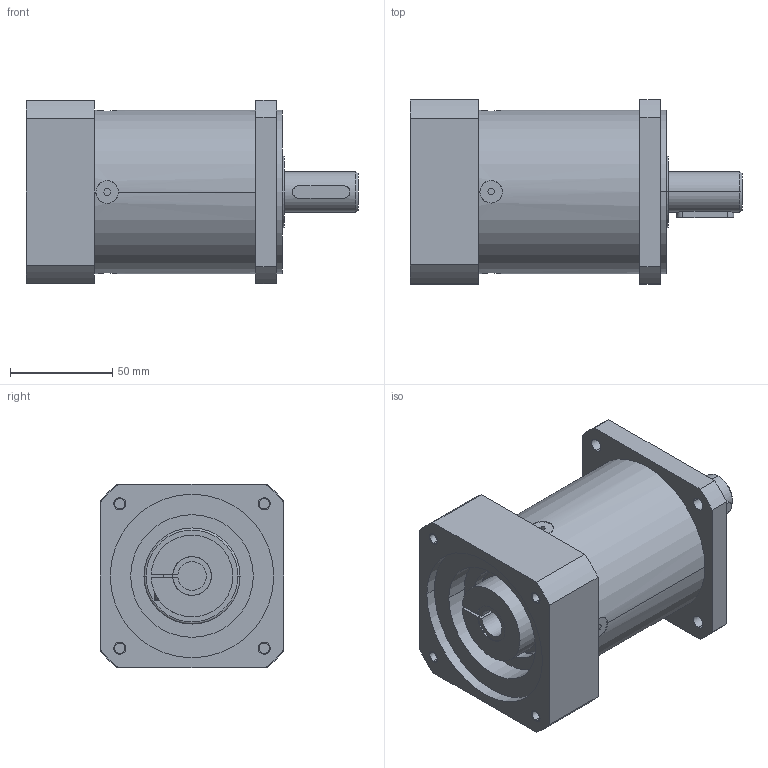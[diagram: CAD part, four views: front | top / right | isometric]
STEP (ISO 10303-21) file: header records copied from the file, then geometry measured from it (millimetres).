
FILE_DESCRIPTION((''),'2;1');
FILE_NAME('MB_PLE_MASTER','2020-02-03T',('agw'),(''),'CREO PARAMETRIC BY PTC INC, 2015290','CREO PARAMETRIC BY PTC INC, 2015290','');
FILE_SCHEMA(('AUTOMOTIVE_DESIGN { 1 0 10303 214 1 1 1 1 }'));
Length unit declared in the file: millimetre
Products named in the file (1): MB_PLE_MASTER
Bounding box: 162.5 x 90 x 90 mm (x, y, z)
Volume: 716323.9 mm3; surface area: 75234.7 mm2
Topology: 1 solids, 6 shells, 175 faces, 415 edges, 269 vertices
Faces by surface type: plane 85, cylinder 78, cone 6, torus 6
Entity records: 6143 total; most frequent: CARTESIAN_POINT 1050, DIRECTION 917, ORIENTED_EDGE 806, EDGE_CURVE 413, AXIS2_PLACEMENT_3D 339, VERTEX_POINT 269, VECTOR 239, LINE 239
